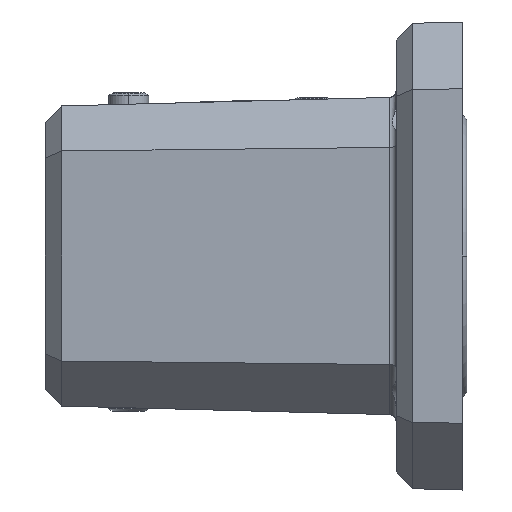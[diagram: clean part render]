
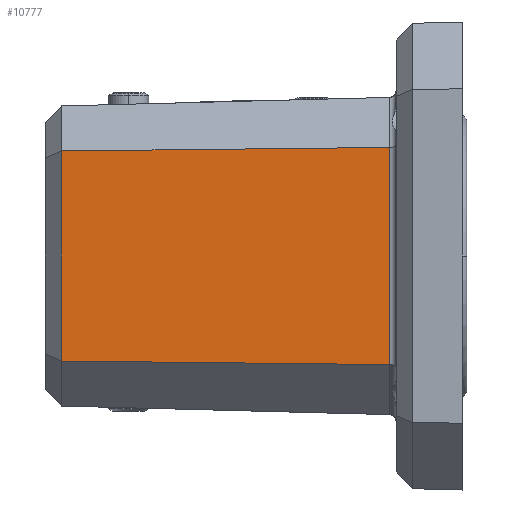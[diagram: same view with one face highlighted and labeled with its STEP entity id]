
A CAD part, left-side view. The second image highlights one B-rep face of the part: STEP entity #10777.
In plain terms, the highlighted planar face has unit normal (-1, 0.026, 0).
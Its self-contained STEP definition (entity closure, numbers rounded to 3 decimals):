
#5842=DIRECTION('',(0.026,1.,-0.011));
#5843=VECTOR('',#5842,98.092);
#5844=CARTESIAN_POINT('',(-47.449,21.948,32.479));
#5845=LINE('',#5844,#5843);
#5856=DIRECTION('',(0.,0.,1.));
#5857=VECTOR('',#5856,64.958);
#5858=CARTESIAN_POINT('',(-47.449,21.948,
-32.479));
#5859=LINE('',#5858,#5857);
#5863=DIRECTION('',(0.026,1.,0.011));
#5864=VECTOR('',#5863,98.092);
#5865=CARTESIAN_POINT('',(-47.449,21.948,
-32.479));
#5866=LINE('',#5865,#5864);
#5870=DIRECTION('',(0.,0.,1.));
#5871=VECTOR('',#5870,62.831);
#5872=CARTESIAN_POINT('',(-44.881,120.,-31.415));
#5873=LINE('',#5872,#5871);
#6618=CARTESIAN_POINT('',(-44.881,120.,-31.415));
#6620=VERTEX_POINT('',#6618);
#6621=CARTESIAN_POINT('',(-44.881,120.,31.415));
#6622=VERTEX_POINT('',#6621);
#6694=CARTESIAN_POINT('',(-47.449,21.948,
-32.479));
#6695=CARTESIAN_POINT('',(-47.449,21.948,32.479));
#6696=VERTEX_POINT('',#6694);
#6697=VERTEX_POINT('',#6695);
#10765=CARTESIAN_POINT('',(-47.5,20.,-36.31));
#10766=DIRECTION('',(-1.,0.026,0.));
#10767=DIRECTION('',(0.,0.,1.));
#10768=AXIS2_PLACEMENT_3D('',#10765,#10766,#10767);
#10769=PLANE('',#10768);
#10771=ORIENTED_EDGE('',*,*,#10770,.F.);
#10772=ORIENTED_EDGE('',*,*,#10428,.T.);
#10773=ORIENTED_EDGE('',*,*,#10455,.T.);
#10774=ORIENTED_EDGE('',*,*,#10758,.F.);
#10775=EDGE_LOOP('',(#10771,#10772,#10773,#10774));
#10776=FACE_OUTER_BOUND('',#10775,.F.);
#10428=EDGE_CURVE('',#6696,#6620,#5866,.T.);
#10455=EDGE_CURVE('',#6620,#6622,#5873,.T.);
#10758=EDGE_CURVE('',#6697,#6622,#5845,.T.);
#10770=EDGE_CURVE('',#6696,#6697,#5859,.T.);
#10777=ADVANCED_FACE('',(#10776),#10769,.T.);
